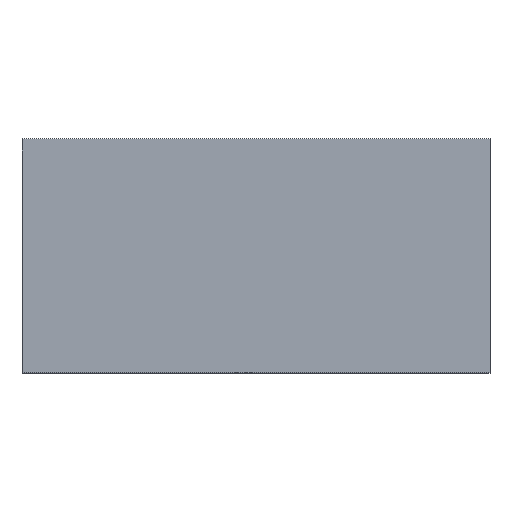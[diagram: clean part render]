
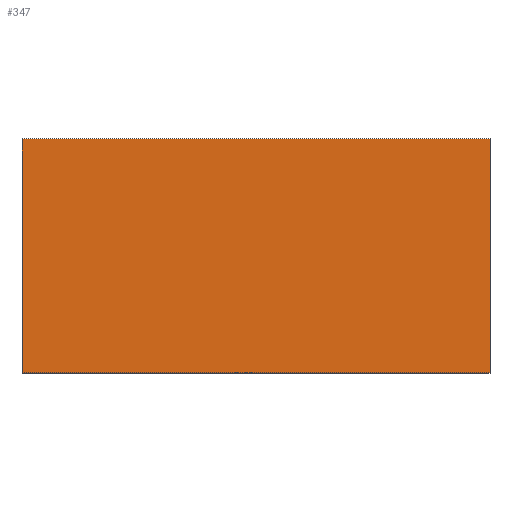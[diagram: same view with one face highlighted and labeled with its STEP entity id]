
A CAD part, top view. The second image highlights one B-rep face of the part: STEP entity #347.
In plain terms, the highlighted planar face has unit normal (0, 0, 1) as drawn and (0, 0, -1) by its records, which use the part's own axes.
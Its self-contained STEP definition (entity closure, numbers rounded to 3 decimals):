
#347=ADVANCED_FACE('',(#518),#520,.F.);
#518=FACE_BOUND('',#519,.T.);
#519=EDGE_LOOP('',(#788,#789,#790,#791));
#520=PLANE('',#521);
#521=AXIS2_PLACEMENT_3D('',#522,#523,#524);
#522=CARTESIAN_POINT('',(0.,0.,-0.03));
#523=DIRECTION('',(0.,0.,1.));
#524=DIRECTION('',(1.,0.,0.));
#788=ORIENTED_EDGE('',*,*,#976,.F.);
#789=ORIENTED_EDGE('',*,*,#974,.F.);
#790=ORIENTED_EDGE('',*,*,#971,.F.);
#791=ORIENTED_EDGE('',*,*,#968,.F.);
#968=EDGE_CURVE('',#1144,#1139,#1146,.T.);
#971=EDGE_CURVE('',#1139,#1147,#1151,.T.);
#974=EDGE_CURVE('',#1147,#1152,#1156,.T.);
#976=EDGE_CURVE('',#1152,#1144,#1158,.T.);
#1139=VERTEX_POINT('',#1342);
#1144=VERTEX_POINT('',#1351);
#1146=LINE('',#1355,#1356);
#1147=VERTEX_POINT('',#1358);
#1151=LINE('',#1366,#1367);
#1152=VERTEX_POINT('',#1369);
#1156=LINE('',#1377,#1378);
#1158=LINE('',#1383,#1384);
#1342=CARTESIAN_POINT('',(1.6,0.8,-0.03));
#1351=CARTESIAN_POINT('',(1.6,-0.8,-0.03));
#1355=CARTESIAN_POINT('',(1.6,-0.8,-0.03));
#1356=VECTOR('',#1357,1.);
#1357=DIRECTION('',(0.,1.,0.));
#1358=CARTESIAN_POINT('',(-1.6,0.8,-0.03));
#1366=CARTESIAN_POINT('',(1.6,0.8,-0.03));
#1367=VECTOR('',#1368,1.);
#1368=DIRECTION('',(-1.,0.,0.));
#1369=CARTESIAN_POINT('',(-1.6,-0.8,-0.03));
#1377=CARTESIAN_POINT('',(-1.6,0.8,-0.03));
#1378=VECTOR('',#1379,1.);
#1379=DIRECTION('',(0.,-1.,0.));
#1383=CARTESIAN_POINT('',(-1.6,-0.8,-0.03));
#1384=VECTOR('',#1385,1.);
#1385=DIRECTION('',(1.,0.,0.));
